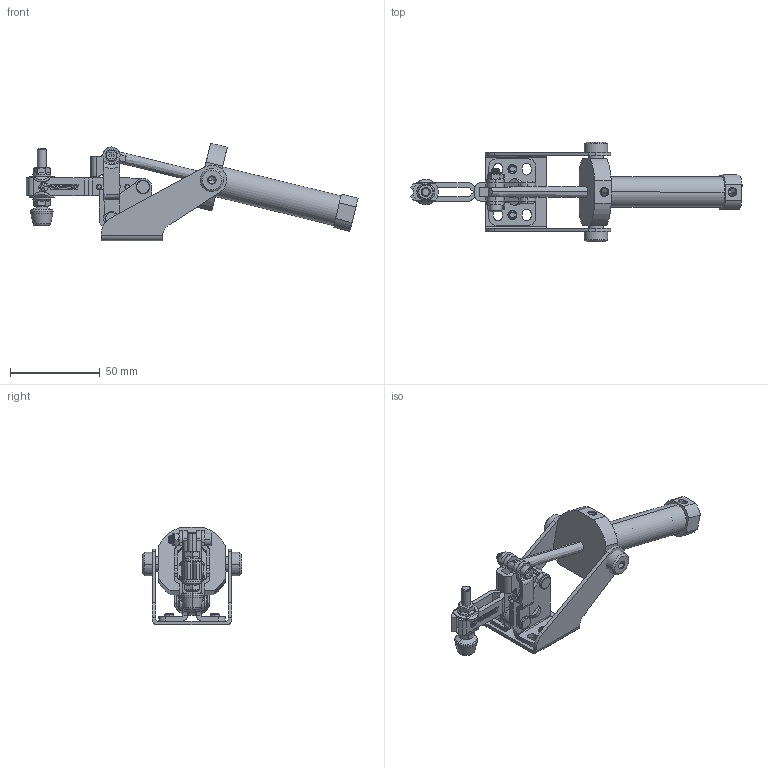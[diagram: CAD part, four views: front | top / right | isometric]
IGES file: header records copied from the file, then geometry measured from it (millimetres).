
Start section: 3D InterOp IGES (v. 2020 1.0.1), Spatial Corp. Copyright (c) 1999-2017.
Global section: file name: 611-1-q16.igs; native system: Spatial Corp.; preprocessor: 3D InterOp ACIS/IGES; author: TraceParts; organization: TraceParts S.A.; date: 20231130.141510; units: millimetre
Bounding box: 185.03 x 55.5 x 54.32 mm (x, y, z)
Surface area: 39784.3 mm2 (no closed solid volume)
Topology: 0 solids, 0 shells, 1564 faces, 10134 edges, 10098 vertices
Faces by surface type: revolution 1092, extrusion 430, bspline 42
